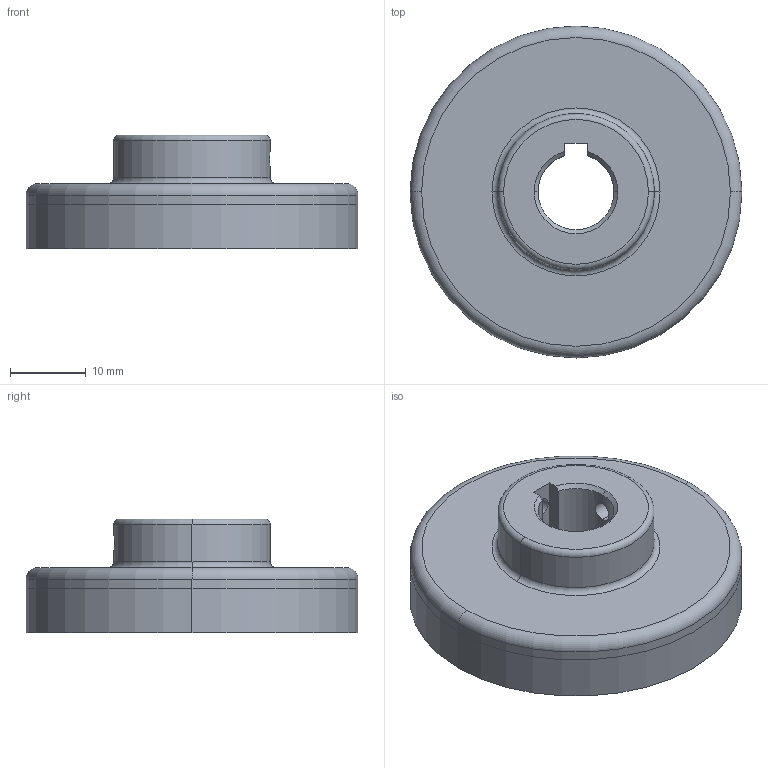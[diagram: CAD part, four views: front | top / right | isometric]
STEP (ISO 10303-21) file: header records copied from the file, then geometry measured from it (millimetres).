
FILE_DESCRIPTION (( 'STEP AP214' ), '1' );
FILE_NAME ('85 Z 0004 A 000 - MTD-0.3 (Kupplungshälfte).STEP', '2016-08-09T07:36:13', ( '' ), ( '' ), 'SwSTEP 2.0', 'SolidWorks 2016', '' );
FILE_SCHEMA (( 'AUTOMOTIVE_DESIGN' ));
Length unit declared in the file: millimetre
Products named in the file (2): 85 Z 0004 B 100  -  MTD-0.3 (Kupplungshälfte)_Bohrung = ›8; 85 Z 0004 A 000  -  MTD-0.3 (Kupplungshälfte)
Assembly tree (1 placements, depth 2):
  85 Z 0004 A 000  -  MTD-0.3 (Kupplungshälfte)
    85 Z 0004 B 100  -  MTD-0.3 (Kupplungshälfte)_Bohrung = ›8
Bounding box: 43.7 x 43.7 x 15 mm (x, y, z)
Volume: 13667.8 mm3; surface area: 8044.7 mm2
Topology: 2 solids, 2 shells, 38 faces, 88 edges, 54 vertices
Faces by surface type: cylinder 17, plane 9, cone 6, torus 6
Entity records: 1395 total; most frequent: CARTESIAN_POINT 312, DIRECTION 208, ORIENTED_EDGE 176, EDGE_CURVE 88, AXIS2_PLACEMENT_3D 88, VERTEX_POINT 54, CIRCLE 46, EDGE_LOOP 46
